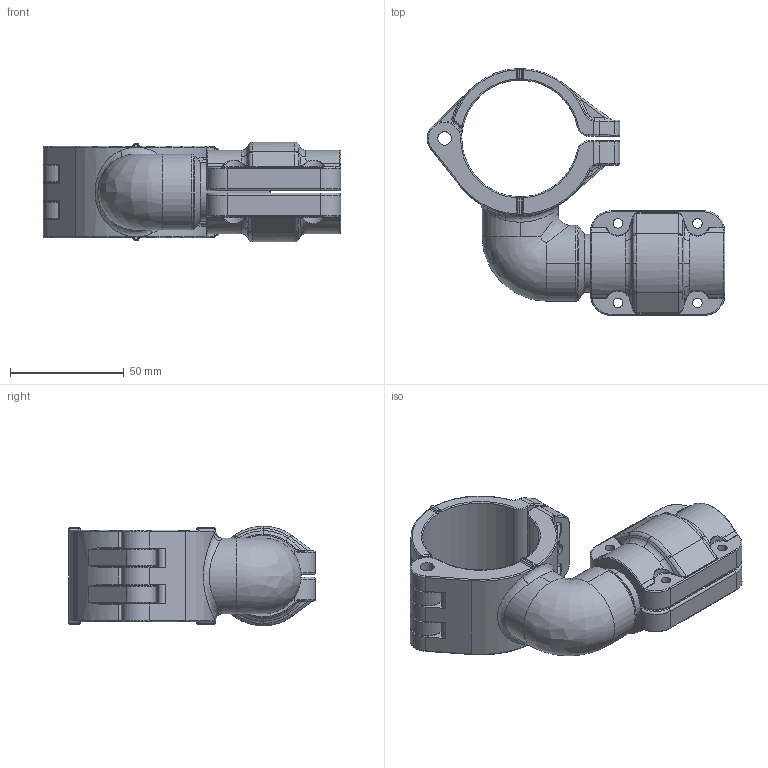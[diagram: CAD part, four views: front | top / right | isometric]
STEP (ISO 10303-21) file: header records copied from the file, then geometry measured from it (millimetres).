
FILE_DESCRIPTION((''),'2;1');
FILE_NAME('2015521099_ASM_ASM','2017-05-15T',('Administrator'),(''),'PRO/ENGINEER BY PARAMETRIC TECHNOLOGY CORPORATION, 2009360','PRO/ENGINEER BY PARAMETRIC TECHNOLOGY CORPORATION, 2009360','');
FILE_SCHEMA(('AUTOMOTIVE_DESIGN_CC2 { 1 2 10303 214 -1 1 5 2 }'));
Length unit declared in the file: millimetre
Products named in the file (9): MANIFOLD_SOLID_BREP_96_4_1; MANIFOLD_SOLID_BREP_97_3_1; 2017521000_ASM_5_ASM_1_ASM; 2017521000_ASM_ASM_1_ASM; 201520020000_23_1; 201520020001_10_1; 2015200200_ASM_1_ASM; 2015521099_ASM_3_ASM; 2015521099_ASM_ASM
Assembly tree (8 placements, depth 5):
  2015521099_ASM_ASM
    2015521099_ASM_3_ASM
      2017521000_ASM_ASM_1_ASM
        2017521000_ASM_5_ASM_1_ASM
          MANIFOLD_SOLID_BREP_96_4_1
          MANIFOLD_SOLID_BREP_97_3_1
      2015200200_ASM_1_ASM
        201520020000_23_1
        201520020001_10_1
Bounding box: 130.88 x 108.61 x 43.8 mm (x, y, z)
Volume: 135298 mm3; surface area: 52000.3 mm2
Topology: 4 solids, 4 shells, 665 faces, 1626 edges, 931 vertices
Faces by surface type: cylinder 217, bspline 197, torus 144, plane 75, sphere 24, cone 8
Entity records: 33074 total; most frequent: CARTESIAN_POINT 13751, ORIENTED_EDGE 3172, DIRECTION 2892, PRESENTATION_STYLE_ASSIGNMENT 1590, STYLED_ITEM 1590, CURVE_STYLE 1586, EDGE_CURVE 1586, AXIS2_PLACEMENT_3D 1263
